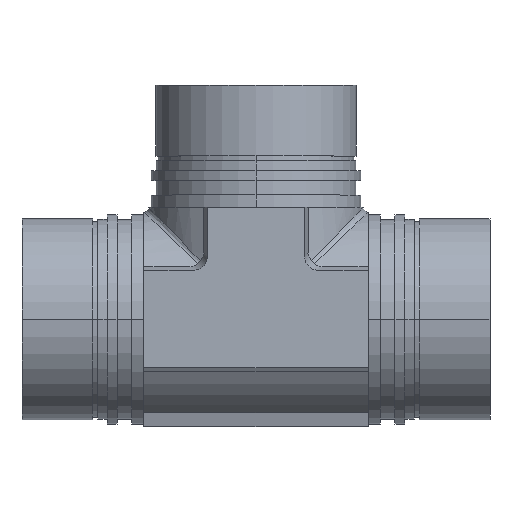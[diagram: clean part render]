
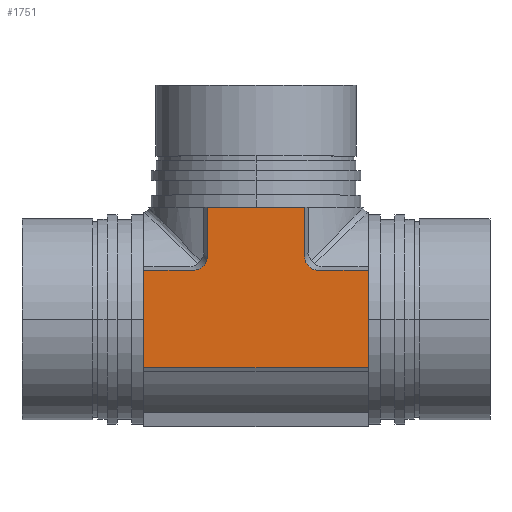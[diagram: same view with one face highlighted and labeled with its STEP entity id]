
A CAD part, top view. The second image highlights one B-rep face of the part: STEP entity #1751.
In plain terms, the highlighted planar face has unit normal (0, 0, 1).
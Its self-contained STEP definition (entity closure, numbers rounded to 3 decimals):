
#819 = CARTESIAN_POINT ( 'NONE',  ( -10., 12.898, 22. ) ) ;
#1609 = EDGE_CURVE ( 'NONE', #1610, #2391, #2683, .T. ) ;
#1610 = VERTEX_POINT ( 'NONE', #2674 ) ;
#1616 = VERTEX_POINT ( 'NONE', #2673 ) ;
#1624 = EDGE_CURVE ( 'NONE', #1616, #1629, #2748, .T. ) ;
#1629 = VERTEX_POINT ( 'NONE', #2750 ) ;
#1671 = EDGE_CURVE ( 'NONE', #2391, #1736, #2843, .T. ) ;
#1677 = EDGE_CURVE ( 'NONE', #1727, #1629, #2858, .T. ) ;
#1678 = EDGE_CURVE ( 'NONE', #1610, #1616, #2810, .T. ) ;
#1679 = ORIENTED_EDGE ( 'NONE', *, *, #1677, .T. ) ;
#1681 = ORIENTED_EDGE ( 'NONE', *, *, #1678, .F. ) ;
#1690 = EDGE_CURVE ( 'NONE', #1727, #1715, #2887, .T. ) ;
#1693 = ORIENTED_EDGE ( 'NONE', *, *, #1690, .F. ) ;
#1696 = EDGE_CURVE ( 'NONE', #1715, #1733, #2912, .T. ) ;
#1698 = ORIENTED_EDGE ( 'NONE', *, *, #1624, .F. ) ;
#1705 = VERTEX_POINT ( 'NONE', #2811 ) ;
#1709 = ORIENTED_EDGE ( 'NONE', *, *, #1671, .T. ) ;
#1713 = ORIENTED_EDGE ( 'NONE', *, *, #1609, .T. ) ;
#1715 = VERTEX_POINT ( 'NONE', #2824 ) ;
#1717 = EDGE_CURVE ( 'NONE', #1728, #1736, #2823, .T. ) ;
#1719 = EDGE_CURVE ( 'NONE', #1705, #1733, #2801, .T. ) ;
#1723 = EDGE_LOOP ( 'NONE', ( #1713, #1709, #1735, #1738, #1752, #1737, #1693, #1679, #1698, #1681 ) ) ;
#1727 = VERTEX_POINT ( 'NONE', #2775 ) ;
#1728 = VERTEX_POINT ( 'NONE', #2784 ) ;
#1732 = EDGE_CURVE ( 'NONE', #1728, #1705, #2604, .T. ) ;
#1733 = VERTEX_POINT ( 'NONE', #2765 ) ;
#1735 = ORIENTED_EDGE ( 'NONE', *, *, #1717, .F. ) ;
#1736 = VERTEX_POINT ( 'NONE', #2773 ) ;
#1737 = ORIENTED_EDGE ( 'NONE', *, *, #1696, .F. ) ;
#1738 = ORIENTED_EDGE ( 'NONE', *, *, #1732, .T. ) ;
#1751 = ADVANCED_FACE ( 'NONE', ( #2967 ), #2941, .F. ) ;
#1752 = ORIENTED_EDGE ( 'NONE', *, *, #1719, .T. ) ;
#2391 = VERTEX_POINT ( 'NONE', #819 ) ;
#2571 = VECTOR ( 'NONE', #2574, 1000. ) ;
#2573 = CARTESIAN_POINT ( 'NONE',  ( -23., 0., 22. ) ) ;
#2574 = DIRECTION ( 'NONE',  ( 0., -1., 0. ) ) ;
#2604 = LINE ( 'NONE', #2573, #2571 ) ;
#2673 = CARTESIAN_POINT ( 'NONE',  ( 10., 23., 22. ) ) ;
#2674 = CARTESIAN_POINT ( 'NONE',  ( -10., 23., 22. ) ) ;
#2680 = DIRECTION ( 'NONE',  ( 0., -1., 0. ) ) ;
#2681 = VECTOR ( 'NONE', #2680, 1000. ) ;
#2682 = CARTESIAN_POINT ( 'NONE',  ( -10., 23., 22. ) ) ;
#2683 = LINE ( 'NONE', #2682, #2681 ) ;
#2734 = VECTOR ( 'NONE', #2753, 1000. ) ;
#2735 = CARTESIAN_POINT ( 'NONE',  ( 10., 23., 22. ) ) ;
#2748 = LINE ( 'NONE', #2735, #2734 ) ;
#2750 = CARTESIAN_POINT ( 'NONE',  ( 10., 12.898, 22. ) ) ;
#2753 = DIRECTION ( 'NONE',  ( 0., -1., 0. ) ) ;
#2765 = CARTESIAN_POINT ( 'NONE',  ( 23., -10., 22. ) ) ;
#2773 = CARTESIAN_POINT ( 'NONE',  ( -12.898, 10., 22. ) ) ;
#2775 = CARTESIAN_POINT ( 'NONE',  ( 12.898, 10., 22. ) ) ;
#2784 = CARTESIAN_POINT ( 'NONE',  ( -23., 10., 22. ) ) ;
#2786 = CARTESIAN_POINT ( 'NONE',  ( -12.898, 10., 22. ) ) ;
#2787 = CARTESIAN_POINT ( 'NONE',  ( -11.178, 10., 22. ) ) ;
#2788 = CARTESIAN_POINT ( 'NONE',  ( -10., 11.178, 22. ) ) ;
#2789 = CARTESIAN_POINT ( 'NONE',  ( -10., 12.898, 22. ) ) ;
#2801 = LINE ( 'NONE', #2852, #2851 ) ;
#2802 = CARTESIAN_POINT ( 'NONE',  ( 10., 12.898, 22. ) ) ;
#2803 = CARTESIAN_POINT ( 'NONE',  ( 10., 11.178, 22. ) ) ;
#2804 = CARTESIAN_POINT ( 'NONE',  ( 11.178, 10., 22. ) ) ;
#2805 = CARTESIAN_POINT ( 'NONE',  ( 12.898, 10., 22. ) ) ;
#2807 = DIRECTION ( 'NONE',  ( 1., 0., 0. ) ) ;
#2808 = VECTOR ( 'NONE', #2807, 1000. ) ;
#2809 = CARTESIAN_POINT ( 'NONE',  ( 0., 23., 22. ) ) ;
#2810 = LINE ( 'NONE', #2809, #2808 ) ;
#2811 = CARTESIAN_POINT ( 'NONE',  ( -23., -10., 22. ) ) ;
#2822 = CARTESIAN_POINT ( 'NONE',  ( -23., 10., 22. ) ) ;
#2823 = LINE ( 'NONE', #2822, #2854 ) ;
#2824 = CARTESIAN_POINT ( 'NONE',  ( 23., 10., 22. ) ) ;
#2843 =( BOUNDED_CURVE ( )  B_SPLINE_CURVE ( 3, ( #2789, #2788, #2787, #2786 ),
 .UNSPECIFIED., .F., .T. ) 
 B_SPLINE_CURVE_WITH_KNOTS ( ( 4, 4 ),
 ( 5.531, 7.035 ),
 .UNSPECIFIED. ) 
 CURVE ( )  GEOMETRIC_REPRESENTATION_ITEM ( )  RATIONAL_B_SPLINE_CURVE ( ( 1., 0.82, 0.82, 1. ) ) 
 REPRESENTATION_ITEM ( '' )  );
#2850 = DIRECTION ( 'NONE',  ( 1., 0., 0. ) ) ;
#2851 = VECTOR ( 'NONE', #2850, 1000. ) ;
#2852 = CARTESIAN_POINT ( 'NONE',  ( -23., -10., 22. ) ) ;
#2853 = DIRECTION ( 'NONE',  ( 1., 0., 0. ) ) ;
#2854 = VECTOR ( 'NONE', #2853, 1000. ) ;
#2858 =( BOUNDED_CURVE ( )  B_SPLINE_CURVE ( 3, ( #2805, #2804, #2803, #2802 ),
 .UNSPECIFIED., .F., .F. ) 
 B_SPLINE_CURVE_WITH_KNOTS ( ( 4, 4 ),
 ( 2.39, 3.893 ),
 .UNSPECIFIED. ) 
 CURVE ( )  GEOMETRIC_REPRESENTATION_ITEM ( )  RATIONAL_B_SPLINE_CURVE ( ( 1., 0.82, 0.82, 1. ) ) 
 REPRESENTATION_ITEM ( '' )  );
#2875 = DIRECTION ( 'NONE',  ( 1., 0., 0. ) ) ;
#2876 = VECTOR ( 'NONE', #2875, 1000. ) ;
#2886 = CARTESIAN_POINT ( 'NONE',  ( -23., 10., 22. ) ) ;
#2887 = LINE ( 'NONE', #2886, #2876 ) ;
#2909 = DIRECTION ( 'NONE',  ( 0., -1., 0. ) ) ;
#2910 = VECTOR ( 'NONE', #2909, 1000. ) ;
#2911 = CARTESIAN_POINT ( 'NONE',  ( 23., 0., 22. ) ) ;
#2912 = LINE ( 'NONE', #2911, #2910 ) ;
#2941 = PLANE ( 'NONE',  #3051 ) ;
#2967 = FACE_OUTER_BOUND ( 'NONE', #1723, .T. ) ;
#3048 = DIRECTION ( 'NONE',  ( -1., 0., 0. ) ) ;
#3049 = DIRECTION ( 'NONE',  ( 0., 0., -1. ) ) ;
#3050 = CARTESIAN_POINT ( 'NONE',  ( 0., 23., 22. ) ) ;
#3051 = AXIS2_PLACEMENT_3D ( 'NONE', #3050, #3049, #3048 ) ;
